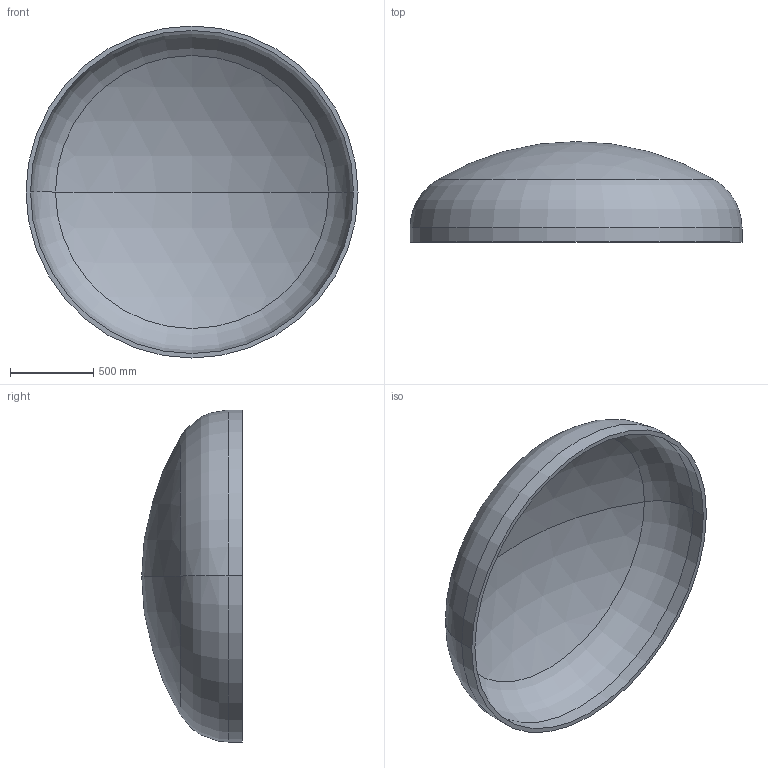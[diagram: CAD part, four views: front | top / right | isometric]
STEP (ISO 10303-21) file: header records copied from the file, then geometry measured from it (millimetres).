
FILE_DESCRIPTION (( 'STEP AP203' ), '1' );
FILE_NAME ('DIN 28013 Korbbogenform_-_Boden DIN 28013 - 2000 x 85 - I - s=27.step', '2016-07-01T13:44:47', ( '' ), ( '' ), 'SwSTEP 2.0', 'SolidWorks 2013', '' );
FILE_SCHEMA (( 'CONFIG_CONTROL_DESIGN' ));
Length unit declared in the file: millimetre
Products named in the file (1): DIN 28013 Korbbogenform_-_Boden DIN 28013 - 2000 x 85 - I - s=27
Bounding box: 2000 x 605.41 x 2000 mm (x, y, z)
Volume: 129774238.2 mm3; surface area: 9781785.8 mm2
Topology: 1 solids, 1 shells, 13 faces, 24 edges, 14 vertices
Faces by surface type: torus 4, cylinder 4, sphere 4, plane 1
Entity records: 407 total; most frequent: DIRECTION 72, CARTESIAN_POINT 52, ORIENTED_EDGE 48, AXIS2_PLACEMENT_3D 34, EDGE_CURVE 24, CIRCLE 20, VERTEX_POINT 14, EDGE_LOOP 14
